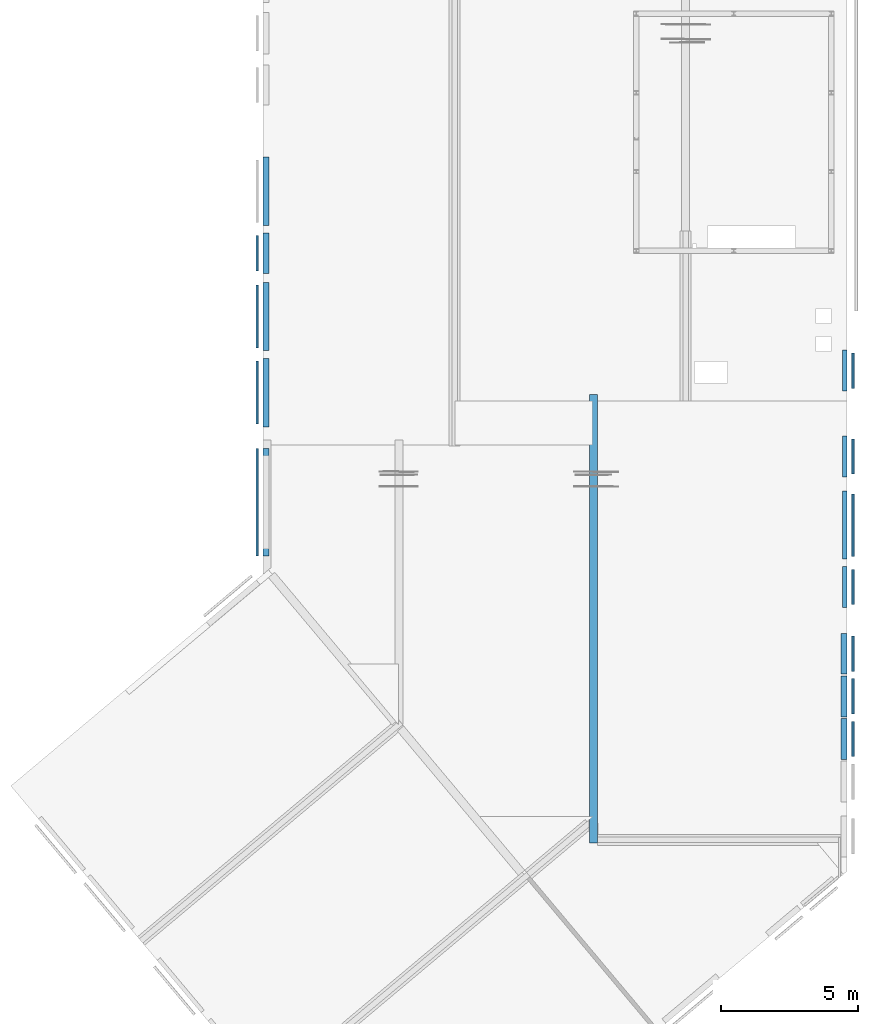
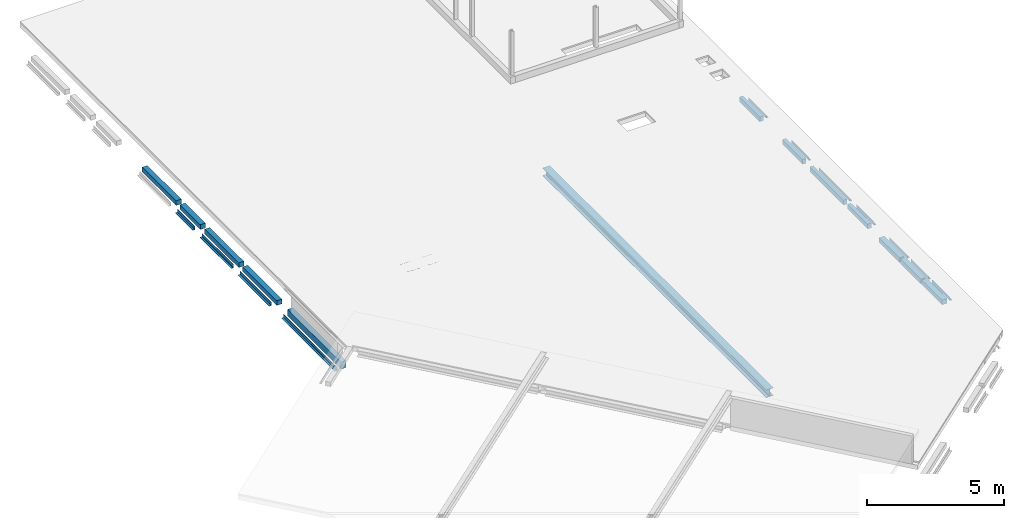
# One storey, part 4 of 9: 24 beams.
"""IFC2X3 building model written with IfcOpenShell, lengths in millimetres."""

from ifc_helpers import new_model, entity, si_unit, converted_unit, derived_unit, direction, frame, frame_2d, origin, origin_2d_with_axis, place, context, subcontext, project, spatial, polyline, circle_curve, parameter, trimmed, segment, composite_curve, rectangle, i_section, outline, extrude, material, type_object, element, save


model = new_model("IFC2X3")

# Units and contexts
model_context = context("Model", 3, precision=0.01, world=origin(), true_north=direction((6.12303176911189e-17, 1.0)))
body_context = subcontext(model_context, "Body", "Model", "MODEL_VIEW")
ifc_project = project(units=[si_unit("LENGTHUNIT", "METRE", prefix="MILLI"), si_unit("AREAUNIT", "SQUARE_METRE"), si_unit("VOLUMEUNIT", "CUBIC_METRE"), converted_unit("PLANEANGLEUNIT", "DEGREE", entity("IfcRatioMeasure", 0.0174532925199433), si_unit("PLANEANGLEUNIT", "RADIAN"), dimensions=[0, 0, 0, 0, 0, 0, 0]), si_unit("MASSUNIT", "GRAM", prefix="KILO"), derived_unit("MASSDENSITYUNIT", [(si_unit("MASSUNIT", "GRAM", prefix="KILO"), 1), (si_unit("LENGTHUNIT", "METRE"), -3)]), derived_unit("MOMENTOFINERTIAUNIT", [(si_unit("LENGTHUNIT", "METRE"), 4)]), si_unit("TIMEUNIT", "SECOND"), si_unit("FREQUENCYUNIT", "HERTZ"), si_unit("THERMODYNAMICTEMPERATUREUNIT", "DEGREE_CELSIUS"), derived_unit("THERMALTRANSMITTANCEUNIT", [(si_unit("MASSUNIT", "GRAM", prefix="KILO"), 1), (si_unit("THERMODYNAMICTEMPERATUREUNIT", "KELVIN"), -1), (si_unit("TIMEUNIT", "SECOND"), -3)]), derived_unit("VOLUMETRICFLOWRATEUNIT", [(si_unit("LENGTHUNIT", "METRE"), 3), (si_unit("TIMEUNIT", "SECOND"), -1)]), si_unit("ELECTRICCURRENTUNIT", "AMPERE"), si_unit("ELECTRICVOLTAGEUNIT", "VOLT"), si_unit("POWERUNIT", "WATT"), si_unit("FORCEUNIT", "NEWTON", prefix="KILO"), si_unit("ILLUMINANCEUNIT", "LUX"), si_unit("LUMINOUSFLUXUNIT", "LUMEN"), si_unit("LUMINOUSINTENSITYUNIT", "CANDELA"), derived_unit("USERDEFINED", [(si_unit("MASSUNIT", "GRAM", prefix="KILO"), -1), (si_unit("LENGTHUNIT", "METRE"), -2), (si_unit("TIMEUNIT", "SECOND"), 3), (si_unit("LUMINOUSFLUXUNIT", "LUMEN"), 1)]), derived_unit("LINEARVELOCITYUNIT", [(si_unit("LENGTHUNIT", "METRE"), 1), (si_unit("TIMEUNIT", "SECOND"), -1)]), si_unit("PRESSUREUNIT", "PASCAL"), derived_unit("USERDEFINED", [(si_unit("LENGTHUNIT", "METRE"), -2), (si_unit("MASSUNIT", "GRAM", prefix="KILO"), 1), (si_unit("TIMEUNIT", "SECOND"), -2)]), derived_unit("LINEARFORCEUNIT", [(si_unit("MASSUNIT", "GRAM", prefix="KILO"), 1), (si_unit("LENGTHUNIT", "METRE"), 1), (si_unit("TIMEUNIT", "SECOND"), -2), (si_unit("LENGTHUNIT", "METRE"), -1)]), derived_unit("PLANARFORCEUNIT", [(si_unit("MASSUNIT", "GRAM", prefix="KILO"), 1), (si_unit("LENGTHUNIT", "METRE"), 1), (si_unit("TIMEUNIT", "SECOND"), -2), (si_unit("LENGTHUNIT", "METRE"), -2)])], contexts=[model_context])

# Site, building, storey
site_placement = place(None, origin())
site = spatial("IfcSite", under=ifc_project, at=site_placement, Name="Default", CompositionType="ELEMENT")
building_placement = place(site_placement, origin())
building = spatial("IfcBuilding", under=site, at=building_placement, CompositionType="ELEMENT")
storey_placement = place(building_placement, frame((0.0, 0.0, 7000.0)))
storey = spatial("IfcBuildingStorey", under=building, at=storey_placement, Name="02 tweede verdieping", CompositionType="ELEMENT", Elevation=7000.00000000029)

# Beams
ifc_material_1 = material(Name="00_Staal_generiek")
beam_type_1 = type_object("IfcBeamType", Name="BERSnl_28_SF_LIB_balk hoeklijn ongelijk_gen_ISR:balk gen l150x100x10", PredefinedType="BEAM")
beam_1_placement = place(storey_placement, frame((13412.0349765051, 22236.0959877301, -60.0), z_axis=(0.0, 0.0, 1.0), x_axis=(0.0, 1.0, 0.0)))
element("IfcBeam", 1, at=beam_1_placement, inside=storey, type_object=beam_type_1, material=ifc_material_1, Name="BERSnl_28_SF_LIB_balk hoeklijn ongelijk_gen_ISR:balk gen l150x100x10", ObjectType="BERSnl_28_SF_LIB_balk hoeklijn ongelijk_gen_ISR:balk gen l150x100x10", context=body_context, shape_type="SweptSolid", body=[
    extrude(outline(composite_curve([segment(polyline([(-95.5555555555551, -37.7777777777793), (54.4444444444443, -37.7777777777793)]), True, "CONTINUOUS"), segment(polyline([(54.4444444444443, -37.7777777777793), (54.4444444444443, 62.222222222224)]), True, "CONTINUOUS"), segment(polyline([(54.4444444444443, 62.222222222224), (50.4444444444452, 62.2222222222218)]), True, "CONTINUOUS"), segment(trimmed(circle_curve(frame_2d((50.4444444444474, 56.222222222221), x_axis=(0.0, 1.0)), 6.00000000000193), [parameter(0.0)], [parameter(89.9999999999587)], True, "PARAMETER"), True, "CONTINUOUS"), segment(polyline([(44.4444444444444, 56.2222222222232), (44.4444444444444, -15.7777777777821)]), True, "CONTINUOUS"), segment(trimmed(circle_curve(frame_2d((32.4444444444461, -15.77777777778), x_axis=(1.0, 0.0)), 11.999999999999), [parameter(269.999999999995)], [parameter(0.0)], True, "PARAMETER"), False, "CONTINUOUS"), segment(polyline([(32.444444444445, -27.7777777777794), (-89.5555555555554, -27.7777777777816)]), True, "CONTINUOUS"), segment(trimmed(circle_curve(frame_2d((-89.5555555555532, -33.7777777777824), x_axis=(0.0, 1.0)), 6.00000000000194), [parameter(0.0)], [parameter(89.9999999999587)], True, "PARAMETER"), True, "CONTINUOUS"), segment(polyline([(-95.5555555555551, -33.7777777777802), (-95.5555555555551, -37.7777777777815)]), True, "CONTINUOUS")], self_intersect=False)), frame((206.561851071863, 14.3777777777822, -95.5555555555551), z_axis=(1.0, 0.0, 0.0), x_axis=(0.0, 0.0, -1.0)), (0.0, 0.0, 1.0), 1285.71516144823),
])
beam_2_placement = place(storey_placement, frame((13412.0349765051, 20591.4664529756, -60.0), z_axis=(0.0, 0.0, 1.0), x_axis=(0.0, 1.0, 0.0)))
element("IfcBeam", 2, at=beam_2_placement, inside=storey, type_object=beam_type_1, material=ifc_material_1, Name="BERSnl_28_SF_LIB_balk hoeklijn ongelijk_gen_ISR:balk gen l150x100x10", ObjectType="BERSnl_28_SF_LIB_balk hoeklijn ongelijk_gen_ISR:balk gen l150x100x10", context=body_context, shape_type="SweptSolid", body=[
    extrude(outline(composite_curve([segment(polyline([(-95.5555555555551, -37.7777777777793), (54.4444444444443, -37.7777777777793)]), True, "CONTINUOUS"), segment(polyline([(54.4444444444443, -37.7777777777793), (54.4444444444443, 62.222222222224)]), True, "CONTINUOUS"), segment(polyline([(54.4444444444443, 62.222222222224), (50.4444444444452, 62.222222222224)]), True, "CONTINUOUS"), segment(trimmed(circle_curve(frame_2d((50.4444444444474, 56.222222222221), x_axis=(0.0, 1.0)), 6.00000000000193), [parameter(0.0)], [parameter(89.9999999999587)], True, "PARAMETER"), True, "CONTINUOUS"), segment(polyline([(44.4444444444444, 56.2222222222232), (44.4444444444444, -15.77777777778)]), True, "CONTINUOUS"), segment(trimmed(circle_curve(frame_2d((32.4444444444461, -15.77777777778), x_axis=(1.0, 0.0)), 11.999999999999), [parameter(269.999999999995)], [parameter(0.0)], True, "PARAMETER"), False, "CONTINUOUS"), segment(polyline([(32.444444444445, -27.7777777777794), (-89.5555555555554, -27.7777777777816)]), True, "CONTINUOUS"), segment(trimmed(circle_curve(frame_2d((-89.5555555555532, -33.7777777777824), x_axis=(0.0, 1.0)), 6.00000000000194), [parameter(0.0)], [parameter(89.9999999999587)], True, "PARAMETER"), True, "CONTINUOUS"), segment(polyline([(-95.5555555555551, -33.7777777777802), (-95.5555555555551, -37.7777777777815)]), True, "CONTINUOUS")], self_intersect=False)), frame((-946.992085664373, 14.3777777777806, -95.5555555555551), z_axis=(1.0, 0.0, 0.0), x_axis=(0.0, 0.0, -1.0)), (0.0, 0.0, 1.0), 2286.00000000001),
])
beam_3_placement = place(storey_placement, frame((13412.0349765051, 17547.4664529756, -60.0), z_axis=(0.0, 0.0, 1.0), x_axis=(0.0, 1.0, 0.0)))
element("IfcBeam", 3, at=beam_3_placement, inside=storey, type_object=beam_type_1, material=ifc_material_1, Name="BERSnl_28_SF_LIB_balk hoeklijn ongelijk_gen_ISR:balk gen l150x100x10", ObjectType="BERSnl_28_SF_LIB_balk hoeklijn ongelijk_gen_ISR:balk gen l150x100x10", context=body_context, shape_type="SweptSolid", body=[
    extrude(outline(composite_curve([segment(polyline([(-95.5555555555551, -37.7777777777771), (54.4444444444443, -37.7777777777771)]), True, "CONTINUOUS"), segment(polyline([(54.4444444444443, -37.7777777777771), (54.4444444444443, 62.2222222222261)]), True, "CONTINUOUS"), segment(polyline([(54.4444444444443, 62.2222222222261), (50.4444444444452, 62.2222222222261)]), True, "CONTINUOUS"), segment(trimmed(circle_curve(frame_2d((50.4444444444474, 56.2222222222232), x_axis=(0.0, 1.0)), 6.00000000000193), [parameter(0.0)], [parameter(89.9999999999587)], True, "PARAMETER"), True, "CONTINUOUS"), segment(polyline([(44.4444444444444, 56.2222222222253), (44.4444444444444, -15.7777777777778)]), True, "CONTINUOUS"), segment(trimmed(circle_curve(frame_2d((32.4444444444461, -15.7777777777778), x_axis=(1.0, 0.0)), 11.999999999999), [parameter(269.999999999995)], [parameter(0.0)], True, "PARAMETER"), False, "CONTINUOUS"), segment(polyline([(32.444444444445, -27.7777777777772), (-89.5555555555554, -27.7777777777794)]), True, "CONTINUOUS"), segment(trimmed(circle_curve(frame_2d((-89.5555555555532, -33.7777777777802), x_axis=(0.0, 1.0)), 6.00000000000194), [parameter(0.0)], [parameter(89.9999999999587)], True, "PARAMETER"), True, "CONTINUOUS"), segment(polyline([(-95.5555555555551, -33.777777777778), (-95.5555555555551, -37.7777777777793)]), True, "CONTINUOUS")], self_intersect=False)), frame((-673.434756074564, 14.3777777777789, -95.5555555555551), z_axis=(1.0, 0.0, 0.0), x_axis=(0.0, 0.0, -1.0)), (0.0, 0.0, 1.0), 2286.44267041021),
])
beam_4_placement = place(storey_placement, frame((35026.8270571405, 18321.1553900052, -60.0), z_axis=(0.0, 0.0, 1.0), x_axis=(0.0, 1.0, 0.0)))
element("IfcBeam", 4, at=beam_4_placement, inside=storey, type_object=beam_type_1, material=ifc_material_1, Name="BERSnl_28_SF_LIB_balk hoeklijn ongelijk_gen_ISR:balk gen l150x100x10", ObjectType="BERSnl_28_SF_LIB_balk hoeklijn ongelijk_gen_ISR:balk gen l150x100x10", context=body_context, shape_type="SweptSolid", body=[
    extrude(outline(composite_curve([segment(polyline([(50.4444444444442, -62.2222222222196), (54.4444444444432, -62.2222222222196)]), True, "CONTINUOUS"), segment(polyline([(54.4444444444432, -62.2222222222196), (54.4444444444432, 37.7777777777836)]), True, "CONTINUOUS"), segment(polyline([(54.4444444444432, 37.7777777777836), (-95.5555555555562, 37.7777777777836)]), True, "CONTINUOUS"), segment(polyline([(-95.5555555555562, 37.7777777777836), (-95.5555555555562, 33.7777777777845)]), True, "CONTINUOUS"), segment(trimmed(circle_curve(frame_2d((-89.5555555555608, 33.7777777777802), x_axis=(-1.0, 0.0)), 5.99999999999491), [parameter(0.0)], [parameter(90.0000000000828)], True, "PARAMETER"), True, "CONTINUOUS"), segment(polyline([(-89.5555555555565, 27.7777777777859), (32.4444444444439, 27.7777777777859)]), True, "CONTINUOUS"), segment(trimmed(circle_curve(frame_2d((32.4444444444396, 15.77777777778), x_axis=(0.0, 1.0)), 12.0000000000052), [parameter(270.000000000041)], [parameter(0.0)], True, "PARAMETER"), False, "CONTINUOUS"), segment(polyline([(44.4444444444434, 15.7777777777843), (44.4444444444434, -56.222222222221)]), True, "CONTINUOUS"), segment(trimmed(circle_curve(frame_2d((50.4444444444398, -56.2222222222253), x_axis=(-1.0, 0.0)), 5.99999999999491), [parameter(0.0)], [parameter(90.0000000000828)], True, "PARAMETER"), True, "CONTINUOUS")], self_intersect=False)), frame((-145.858761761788, -14.3777777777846, -95.5555555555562), z_axis=(1.0, 0.0, 0.0), x_axis=(0.0, 0.0, -1.0)), (0.0, 0.0, 1.0), 1286.0),
])
beam_5_placement = place(storey_placement, frame((35026.8270571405, 15296.1553900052, -60.0), z_axis=(0.0, 0.0, 1.0), x_axis=(0.0, 1.0, 0.0)))
element("IfcBeam", 5, at=beam_5_placement, inside=storey, type_object=beam_type_1, material=ifc_material_1, Name="BERSnl_28_SF_LIB_balk hoeklijn ongelijk_gen_ISR:balk gen l150x100x10", ObjectType="BERSnl_28_SF_LIB_balk hoeklijn ongelijk_gen_ISR:balk gen l150x100x10", context=body_context, shape_type="SweptSolid", body=[
    extrude(outline(composite_curve([segment(polyline([(50.4444444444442, -62.222222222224), (54.4444444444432, -62.222222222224)]), True, "CONTINUOUS"), segment(polyline([(54.4444444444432, -62.222222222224), (54.4444444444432, 37.7777777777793)]), True, "CONTINUOUS"), segment(polyline([(54.4444444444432, 37.7777777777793), (-95.5555555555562, 37.7777777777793)]), True, "CONTINUOUS"), segment(polyline([(-95.5555555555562, 37.7777777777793), (-95.5555555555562, 33.7777777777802)]), True, "CONTINUOUS"), segment(trimmed(circle_curve(frame_2d((-89.5555555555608, 33.7777777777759), x_axis=(-1.0, 0.0)), 5.99999999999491), [parameter(0.0)], [parameter(90.0000000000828)], True, "PARAMETER"), True, "CONTINUOUS"), segment(polyline([(-89.5555555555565, 27.7777777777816), (32.4444444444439, 27.7777777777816)]), True, "CONTINUOUS"), segment(trimmed(circle_curve(frame_2d((32.4444444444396, 15.7777777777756), x_axis=(0.0, 1.0)), 12.0000000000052), [parameter(270.000000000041)], [parameter(0.0)], True, "PARAMETER"), False, "CONTINUOUS"), segment(polyline([(44.4444444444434, 15.77777777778), (44.4444444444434, -56.2222222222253)]), True, "CONTINUOUS"), segment(trimmed(circle_curve(frame_2d((50.4444444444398, -56.2222222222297), x_axis=(-1.0, 0.0)), 5.99999999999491), [parameter(0.0)], [parameter(90.0000000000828)], True, "PARAMETER"), True, "CONTINUOUS")], self_intersect=False)), frame((-242.521719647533, -14.3777777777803, -95.5555555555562), z_axis=(1.0, 0.0, 0.0), x_axis=(0.0, 0.0, -1.0)), (0.0, 0.0, 1.0), 1279.0),
])
beam_6_placement = place(storey_placement, frame((35026.8270571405, 13581.1553900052, -60.0), z_axis=(0.0, 0.0, 1.0), x_axis=(0.0, 1.0, 0.0)))
element("IfcBeam", 6, at=beam_6_placement, inside=storey, type_object=beam_type_1, material=ifc_material_1, Name="BERSnl_28_SF_LIB_balk hoeklijn ongelijk_gen_ISR:balk gen l150x100x10", ObjectType="BERSnl_28_SF_LIB_balk hoeklijn ongelijk_gen_ISR:balk gen l150x100x10", context=body_context, shape_type="SweptSolid", body=[
    extrude(outline(composite_curve([segment(polyline([(50.4444444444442, -62.2222222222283), (54.4444444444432, -62.2222222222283)]), True, "CONTINUOUS"), segment(polyline([(54.4444444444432, -62.2222222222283), (54.4444444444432, 37.777777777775)]), True, "CONTINUOUS"), segment(polyline([(54.4444444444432, 37.777777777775), (-95.5555555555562, 37.777777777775)]), True, "CONTINUOUS"), segment(polyline([(-95.5555555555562, 37.777777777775), (-95.5555555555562, 33.7777777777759)]), True, "CONTINUOUS"), segment(trimmed(circle_curve(frame_2d((-89.5555555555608, 33.7777777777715), x_axis=(-1.0, 0.0)), 5.99999999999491), [parameter(0.0)], [parameter(90.0000000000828)], True, "PARAMETER"), True, "CONTINUOUS"), segment(polyline([(-89.5555555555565, 27.7777777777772), (32.4444444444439, 27.7777777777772)]), True, "CONTINUOUS"), segment(trimmed(circle_curve(frame_2d((32.4444444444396, 15.7777777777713), x_axis=(0.0, 1.0)), 12.0000000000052), [parameter(270.000000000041)], [parameter(0.0)], True, "PARAMETER"), False, "CONTINUOUS"), segment(polyline([(44.4444444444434, 15.7777777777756), (44.4444444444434, -56.2222222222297)]), True, "CONTINUOUS"), segment(trimmed(circle_curve(frame_2d((50.4444444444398, -56.222222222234), x_axis=(-1.0, 0.0)), 5.99999999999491), [parameter(0.0)], [parameter(90.0000000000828)], True, "PARAMETER"), True, "CONTINUOUS")], self_intersect=False)), frame((-1517.34991712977, -14.377777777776, -95.5555555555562), z_axis=(1.0, 0.0, 0.0), x_axis=(0.0, 0.0, -1.0)), (0.0, 0.0, 1.0), 2268.82819748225),
])
beam_7_placement = place(storey_placement, frame((35026.8270571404, 10666.1553900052, -60.0), z_axis=(0.0, 0.0, 1.0), x_axis=(0.0, 1.0, 0.0)))
element("IfcBeam", 7, at=beam_7_placement, inside=storey, type_object=beam_type_1, material=ifc_material_1, Name="BERSnl_28_SF_LIB_balk hoeklijn ongelijk_gen_ISR:balk gen l150x100x10", ObjectType="BERSnl_28_SF_LIB_balk hoeklijn ongelijk_gen_ISR:balk gen l150x100x10", context=body_context, shape_type="SweptSolid", body=[
    extrude(outline(composite_curve([segment(polyline([(50.4444444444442, -62.2222222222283), (54.4444444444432, -62.2222222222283)]), True, "CONTINUOUS"), segment(polyline([(54.4444444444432, -62.2222222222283), (54.4444444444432, 37.777777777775)]), True, "CONTINUOUS"), segment(polyline([(54.4444444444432, 37.777777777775), (-95.5555555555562, 37.777777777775)]), True, "CONTINUOUS"), segment(polyline([(-95.5555555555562, 37.777777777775), (-95.5555555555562, 33.7777777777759)]), True, "CONTINUOUS"), segment(trimmed(circle_curve(frame_2d((-89.5555555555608, 33.7777777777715), x_axis=(-1.0, 0.0)), 5.99999999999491), [parameter(0.0)], [parameter(90.0000000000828)], True, "PARAMETER"), True, "CONTINUOUS"), segment(polyline([(-89.5555555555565, 27.7777777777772), (32.4444444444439, 27.7777777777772)]), True, "CONTINUOUS"), segment(trimmed(circle_curve(frame_2d((32.4444444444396, 15.7777777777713), x_axis=(0.0, 1.0)), 12.0000000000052), [parameter(270.000000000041)], [parameter(0.0)], True, "PARAMETER"), False, "CONTINUOUS"), segment(polyline([(44.4444444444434, 15.7777777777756), (44.4444444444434, -56.2222222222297)]), True, "CONTINUOUS"), segment(trimmed(circle_curve(frame_2d((50.4444444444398, -56.222222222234), x_axis=(-1.0, 0.0)), 5.99999999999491), [parameter(0.0)], [parameter(90.0000000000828)], True, "PARAMETER"), True, "CONTINUOUS")], self_intersect=False)), frame((-359.858761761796, -14.377777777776, -95.5555555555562), z_axis=(1.0, 0.0, 0.0), x_axis=(0.0, 0.0, -1.0)), (0.0, 0.0, 1.0), 1285.0),
])
beam_8_placement = place(storey_placement, frame((35026.8270571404, 8168.22848625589, -60.0), z_axis=(0.0, 0.0, 1.0), x_axis=(0.0, 1.0, 0.0)))
element("IfcBeam", 8, at=beam_8_placement, inside=storey, type_object=beam_type_1, material=ifc_material_1, Name="BERSnl_28_SF_LIB_balk hoeklijn ongelijk_gen_ISR:balk gen l150x100x10", ObjectType="BERSnl_28_SF_LIB_balk hoeklijn ongelijk_gen_ISR:balk gen l150x100x10", context=body_context, shape_type="SweptSolid", body=[
    extrude(outline(composite_curve([segment(polyline([(50.4444444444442, -62.2222222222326), (54.4444444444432, -62.2222222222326)]), True, "CONTINUOUS"), segment(polyline([(54.4444444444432, -62.2222222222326), (54.4444444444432, 37.7777777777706)]), True, "CONTINUOUS"), segment(polyline([(54.4444444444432, 37.7777777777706), (-95.5555555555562, 37.7777777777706)]), True, "CONTINUOUS"), segment(polyline([(-95.5555555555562, 37.7777777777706), (-95.5555555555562, 33.7777777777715)]), True, "CONTINUOUS"), segment(trimmed(circle_curve(frame_2d((-89.5555555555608, 33.7777777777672), x_axis=(-1.0, 0.0)), 5.99999999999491), [parameter(0.0)], [parameter(90.0000000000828)], True, "PARAMETER"), True, "CONTINUOUS"), segment(polyline([(-89.5555555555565, 27.7777777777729), (32.4444444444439, 27.7777777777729)]), True, "CONTINUOUS"), segment(trimmed(circle_curve(frame_2d((32.4444444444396, 15.777777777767), x_axis=(0.0, 1.0)), 12.0000000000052), [parameter(270.000000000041)], [parameter(0.0)], True, "PARAMETER"), False, "CONTINUOUS"), segment(polyline([(44.4444444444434, 15.7777777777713), (44.4444444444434, -56.222222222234)]), True, "CONTINUOUS"), segment(trimmed(circle_curve(frame_2d((50.4444444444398, -56.2222222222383), x_axis=(-1.0, 0.0)), 5.99999999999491), [parameter(0.0)], [parameter(90.0000000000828)], True, "PARAMETER"), True, "CONTINUOUS")], self_intersect=False)), frame((-292.658148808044, -14.3777777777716, -95.5555555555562), z_axis=(1.0, 0.0, 0.0), x_axis=(0.0, 0.0, -1.0)), (0.0, 0.0, 1.0), 1285.99999999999),
])
beam_9_placement = place(storey_placement, frame((35026.8270571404, 6618.22848625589, -60.0), z_axis=(0.0, 0.0, 1.0), x_axis=(0.0, 1.0, 0.0)))
element("IfcBeam", 9, at=beam_9_placement, inside=storey, type_object=beam_type_1, material=ifc_material_1, Name="BERSnl_28_SF_LIB_balk hoeklijn ongelijk_gen_ISR:balk gen l150x100x10", ObjectType="BERSnl_28_SF_LIB_balk hoeklijn ongelijk_gen_ISR:balk gen l150x100x10", context=body_context, shape_type="SweptSolid", body=[
    extrude(outline(composite_curve([segment(polyline([(50.4444444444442, -62.2222222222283), (54.4444444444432, -62.2222222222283)]), True, "CONTINUOUS"), segment(polyline([(54.4444444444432, -62.2222222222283), (54.4444444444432, 37.777777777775)]), True, "CONTINUOUS"), segment(polyline([(54.4444444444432, 37.777777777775), (-95.5555555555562, 37.777777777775)]), True, "CONTINUOUS"), segment(polyline([(-95.5555555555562, 37.777777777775), (-95.5555555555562, 33.7777777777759)]), True, "CONTINUOUS"), segment(trimmed(circle_curve(frame_2d((-89.5555555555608, 33.7777777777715), x_axis=(-1.0, 0.0)), 5.99999999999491), [parameter(0.0)], [parameter(90.0000000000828)], True, "PARAMETER"), True, "CONTINUOUS"), segment(polyline([(-89.5555555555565, 27.7777777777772), (32.4444444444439, 27.7777777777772)]), True, "CONTINUOUS"), segment(trimmed(circle_curve(frame_2d((32.4444444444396, 15.7777777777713), x_axis=(0.0, 1.0)), 12.0000000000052), [parameter(270.000000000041)], [parameter(0.0)], True, "PARAMETER"), False, "CONTINUOUS"), segment(polyline([(44.4444444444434, 15.7777777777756), (44.4444444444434, -56.2222222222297)]), True, "CONTINUOUS"), segment(trimmed(circle_curve(frame_2d((50.4444444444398, -56.222222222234), x_axis=(-1.0, 0.0)), 5.99999999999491), [parameter(0.0)], [parameter(90.0000000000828)], True, "PARAMETER"), True, "CONTINUOUS")], self_intersect=False)), frame((-292.658148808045, -14.377777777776, -95.5555555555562), z_axis=(1.0, 0.0, 0.0), x_axis=(0.0, 0.0, -1.0)), (0.0, 0.0, 1.0), 1285.99999999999),
])
beam_10_placement = place(storey_placement, frame((35026.8270571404, 5068.22848625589, -60.0), z_axis=(0.0, 0.0, 1.0), x_axis=(0.0, 1.0, 0.0)))
element("IfcBeam", 10, at=beam_10_placement, inside=storey, type_object=beam_type_1, material=ifc_material_1, Name="BERSnl_28_SF_LIB_balk hoeklijn ongelijk_gen_ISR:balk gen l150x100x10", ObjectType="BERSnl_28_SF_LIB_balk hoeklijn ongelijk_gen_ISR:balk gen l150x100x10", context=body_context, shape_type="SweptSolid", body=[
    extrude(outline(composite_curve([segment(polyline([(50.4444444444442, -62.2222222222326), (54.4444444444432, -62.2222222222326)]), True, "CONTINUOUS"), segment(polyline([(54.4444444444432, -62.2222222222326), (54.4444444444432, 37.7777777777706)]), True, "CONTINUOUS"), segment(polyline([(54.4444444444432, 37.7777777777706), (-95.5555555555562, 37.7777777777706)]), True, "CONTINUOUS"), segment(polyline([(-95.5555555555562, 37.7777777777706), (-95.5555555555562, 33.7777777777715)]), True, "CONTINUOUS"), segment(trimmed(circle_curve(frame_2d((-89.5555555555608, 33.7777777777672), x_axis=(-1.0, 0.0)), 5.99999999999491), [parameter(0.0)], [parameter(90.0000000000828)], True, "PARAMETER"), True, "CONTINUOUS"), segment(polyline([(-89.5555555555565, 27.7777777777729), (32.4444444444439, 27.7777777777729)]), True, "CONTINUOUS"), segment(trimmed(circle_curve(frame_2d((32.4444444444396, 15.777777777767), x_axis=(0.0, 1.0)), 12.0000000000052), [parameter(270.000000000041)], [parameter(0.0)], True, "PARAMETER"), False, "CONTINUOUS"), segment(polyline([(44.4444444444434, 15.7777777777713), (44.4444444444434, -56.222222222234)]), True, "CONTINUOUS"), segment(trimmed(circle_curve(frame_2d((50.4444444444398, -56.2222222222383), x_axis=(-1.0, 0.0)), 5.99999999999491), [parameter(0.0)], [parameter(90.0000000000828)], True, "PARAMETER"), True, "CONTINUOUS")], self_intersect=False)), frame((-292.658148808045, -14.3777777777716, -95.5555555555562), z_axis=(1.0, 0.0, 0.0), x_axis=(0.0, 0.0, -1.0)), (0.0, 0.0, 1.0), 1285.99999999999),
])
beam_11_placement = place(storey_placement, frame((13412.0349765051, 13087.3650350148, -50.0), z_axis=(0.0, 0.0, 1.0), x_axis=(0.0, 1.0, 0.0)))
element("IfcBeam", 11, at=beam_11_placement, inside=storey, type_object=beam_type_1, material=ifc_material_1, Name="BERSnl_28_SF_LIB_balk hoeklijn ongelijk_gen_ISR:balk gen l150x100x10", ObjectType="BERSnl_28_SF_LIB_balk hoeklijn ongelijk_gen_ISR:balk gen l150x100x10", context=body_context, shape_type="SweptSolid", body=[
    extrude(outline(composite_curve([segment(polyline([(-95.5555555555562, -37.7777777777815), (54.4444444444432, -37.7777777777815)]), True, "CONTINUOUS"), segment(polyline([(54.4444444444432, -37.7777777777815), (54.4444444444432, 62.2222222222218)]), True, "CONTINUOUS"), segment(polyline([(54.4444444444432, 62.2222222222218), (50.4444444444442, 62.2222222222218)]), True, "CONTINUOUS"), segment(trimmed(circle_curve(frame_2d((50.4444444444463, 56.2222222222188), x_axis=(0.0, 1.0)), 6.00000000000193), [parameter(0.0)], [parameter(89.9999999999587)], True, "PARAMETER"), True, "CONTINUOUS"), segment(polyline([(44.4444444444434, 56.222222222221), (44.4444444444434, -15.7777777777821)]), True, "CONTINUOUS"), segment(trimmed(circle_curve(frame_2d((32.444444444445, -15.7777777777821), x_axis=(1.0, 0.0)), 11.999999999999), [parameter(269.999999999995)], [parameter(0.0)], True, "PARAMETER"), False, "CONTINUOUS"), segment(polyline([(32.4444444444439, -27.7777777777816), (-89.5555555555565, -27.7777777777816)]), True, "CONTINUOUS"), segment(trimmed(circle_curve(frame_2d((-89.5555555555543, -33.7777777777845), x_axis=(0.0, 1.0)), 6.00000000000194), [parameter(0.0)], [parameter(89.9999999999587)], True, "PARAMETER"), True, "CONTINUOUS"), segment(polyline([(-95.5555555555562, -33.7777777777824), (-95.5555555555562, -37.7777777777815)]), True, "CONTINUOUS")], self_intersect=False)), frame((-1006.12086474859, 14.3777777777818, -95.5555555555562), z_axis=(1.0, 0.0, 0.0), x_axis=(0.0, 0.0, -1.0)), (0.0, 0.0, 1.0), 3900.0),
])
ifc_material_2 = material(Name="f2_beton prefab")
beam_type_2 = type_object("IfcBeamType", Name="BERSnl_28_SF_LIB_balk vierkant prefab_gen_ISR:balk vierkant gen 150x210", PredefinedType="JOIST")
beam_12_placement = place(storey_placement, frame((34758.4270571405, 18344.7128473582, 10.0), z_axis=(0.0, 0.0, 1.0), x_axis=(0.0, 1.0, 0.0)))
element("IfcBeam", 12, at=beam_12_placement, inside=storey, type_object=beam_type_2, material=ifc_material_2, Name="BERSnl_28_SF_LIB_balk vierkant prefab_gen_ISR:balk vierkant gen 150x210", ObjectType="BERSnl_28_SF_LIB_balk vierkant prefab_gen_ISR:balk vierkant gen 150x210", context=body_context, shape_type="SweptSolid", body=[
    extrude(rectangle(XDim=210.000000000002, YDim=149.999999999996, at=frame_2d((0.0, -2.1600499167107e-12), x_axis=(1.0, 0.0))), frame((-269.416219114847, 0.0, -105.0), z_axis=(1.0, 0.0, 0.0), x_axis=(0.0, 0.0, -1.0)), (0.0, 0.0, 1.0), 1486.0),
])
beam_13_placement = place(storey_placement, frame((34758.4270571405, 15319.7128473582, 10.0), z_axis=(0.0, 0.0, 1.0), x_axis=(0.0, 1.0, 0.0)))
element("IfcBeam", 13, at=beam_13_placement, inside=storey, type_object=beam_type_2, material=ifc_material_2, Name="BERSnl_28_SF_LIB_balk vierkant prefab_gen_ISR:balk vierkant gen 150x210", ObjectType="BERSnl_28_SF_LIB_balk vierkant prefab_gen_ISR:balk vierkant gen 150x210", context=body_context, shape_type="SweptSolid", body=[
    extrude(rectangle(XDim=210.000000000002, YDim=149.999999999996, at=frame_2d((0.0, -2.1600499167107e-12), x_axis=(1.0, 0.0))), frame((-366.079177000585, 0.0, -105.0), z_axis=(1.0, 0.0, 0.0), x_axis=(0.0, 0.0, -1.0)), (0.0, 0.0, 1.0), 1479.0),
])
beam_14_placement = place(storey_placement, frame((34758.4270571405, 13604.7128473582, 10.0), z_axis=(0.0, 0.0, 1.0), x_axis=(0.0, 1.0, 0.0)))
element("IfcBeam", 14, at=beam_14_placement, inside=storey, type_object=beam_type_2, material=ifc_material_2, Name="BERSnl_28_SF_LIB_balk vierkant prefab_gen_ISR:balk vierkant gen 150x210", ObjectType="BERSnl_28_SF_LIB_balk vierkant prefab_gen_ISR:balk vierkant gen 150x210", context=body_context, shape_type="SweptSolid", body=[
    extrude(rectangle(XDim=210.000000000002, YDim=149.999999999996, at=frame_2d((0.0, -2.1600499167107e-12), x_axis=(1.0, 0.0))), frame((-1640.90737448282, 0.0, -105.0), z_axis=(1.0, 0.0, 0.0), x_axis=(0.0, 0.0, -1.0)), (0.0, 0.0, 1.0), 2468.82819748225),
])
beam_15_placement = place(storey_placement, frame((34758.4270571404, 10689.7128473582, 10.0), z_axis=(0.0, 0.0, 1.0), x_axis=(0.0, 1.0, 0.0)))
element("IfcBeam", 15, at=beam_15_placement, inside=storey, type_object=beam_type_2, material=ifc_material_2, Name="BERSnl_28_SF_LIB_balk vierkant prefab_gen_ISR:balk vierkant gen 150x210", ObjectType="BERSnl_28_SF_LIB_balk vierkant prefab_gen_ISR:balk vierkant gen 150x210", context=body_context, shape_type="SweptSolid", body=[
    extrude(rectangle(XDim=210.000000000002, YDim=149.999999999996, at=frame_2d((0.0, 2.1600499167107e-12), x_axis=(1.0, 0.0))), frame((-481.896994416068, 0.0, -105.0), z_axis=(1.0, 0.0, 0.0), x_axis=(0.0, 0.0, -1.0)), (0.0, 0.0, 1.0), 1483.48077530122),
])
beam_type_3 = type_object("IfcBeamType", Name="BERSnl_28_SF_LIB_balk vierkant prefab_gen_ISR:balk vierkant gen 214x210", PredefinedType="JOIST")
beam_16_placement = place(storey_placement, frame((13702.4349765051, 22188.7279143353, 10.0), z_axis=(0.0, 0.0, 1.0), x_axis=(0.0, 1.0, 0.0)))
element("IfcBeam", 16, at=beam_16_placement, inside=storey, type_object=beam_type_3, material=ifc_material_2, Name="BERSnl_28_SF_LIB_balk vierkant prefab_gen_ISR:balk vierkant gen 214x210", ObjectType="BERSnl_28_SF_LIB_balk vierkant prefab_gen_ISR:balk vierkant gen 214x210", context=body_context, shape_type="SweptSolid", body=[
    extrude(rectangle(XDim=210.000000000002, YDim=213.999999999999, at=origin_2d_with_axis()), frame((155.44914916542, 0.0, -105.0), z_axis=(1.0, 0.0, 0.0), x_axis=(0.0, 0.0, -1.0)), (0.0, 0.0, 1.0), 1483.45055191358),
])
beam_17_placement = place(storey_placement, frame((13702.4349765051, 25044.0983795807, 10.0), z_axis=(0.0, 0.0, 1.0), x_axis=(0.0, 1.0, 0.0)))
element("IfcBeam", 17, at=beam_17_placement, inside=storey, type_object=beam_type_3, material=ifc_material_2, Name="BERSnl_28_SF_LIB_balk vierkant prefab_gen_ISR:balk vierkant gen 214x210", ObjectType="BERSnl_28_SF_LIB_balk vierkant prefab_gen_ISR:balk vierkant gen 214x210", context=body_context, shape_type="SweptSolid", body=[
    extrude(rectangle(XDim=210.000000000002, YDim=213.999999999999, at=origin_2d_with_axis()), frame((-937.08712714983, 0.0, -105.0), z_axis=(1.0, 0.0, 0.0), x_axis=(0.0, 0.0, -1.0)), (0.0, 0.0, 1.0), 2477.32406466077),
])
beam_18_placement = place(storey_placement, frame((13702.4349765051, 20544.0983795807, 10.0), z_axis=(0.0, 0.0, 1.0), x_axis=(0.0, 1.0, 0.0)))
element("IfcBeam", 18, at=beam_18_placement, inside=storey, type_object=beam_type_3, material=ifc_material_2, Name="BERSnl_28_SF_LIB_balk vierkant prefab_gen_ISR:balk vierkant gen 214x210", ObjectType="BERSnl_28_SF_LIB_balk vierkant prefab_gen_ISR:balk vierkant gen 214x210", context=body_context, shape_type="SweptSolid", body=[
    extrude(rectangle(XDim=210.000000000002, YDim=213.999999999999, at=origin_2d_with_axis()), frame((-999.624012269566, 0.0, -105.0), z_axis=(1.0, 0.0, 0.0), x_axis=(0.0, 0.0, -1.0)), (0.0, 0.0, 1.0), 2486.00000000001),
])
beam_19_placement = place(storey_placement, frame((13702.4349765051, 17500.0983795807, 10.0), z_axis=(0.0, 0.0, 1.0), x_axis=(0.0, 1.0, 0.0)))
element("IfcBeam", 19, at=beam_19_placement, inside=storey, type_object=beam_type_3, material=ifc_material_2, Name="BERSnl_28_SF_LIB_balk vierkant prefab_gen_ISR:balk vierkant gen 214x210", ObjectType="BERSnl_28_SF_LIB_balk vierkant prefab_gen_ISR:balk vierkant gen 214x210", context=body_context, shape_type="SweptSolid", body=[
    extrude(rectangle(XDim=210.000000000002, YDim=213.999999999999, at=frame_2d((0.0, 2.16715534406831e-12), x_axis=(1.0, 0.0))), frame((-726.066682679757, 0.0, -105.0), z_axis=(1.0, 0.0, 0.0), x_axis=(0.0, 0.0, -1.0)), (0.0, 0.0, 1.0), 2486.4426704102),
])
beam_20_placement = place(storey_placement, frame((34726.4270571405, 8190.40177371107, 10.0), z_axis=(0.0, 0.0, 1.0), x_axis=(0.0, 1.0, 0.0)))
element("IfcBeam", 20, at=beam_20_placement, inside=storey, type_object=beam_type_3, material=ifc_material_2, Name="BERSnl_28_SF_LIB_balk vierkant prefab_gen_ISR:balk vierkant gen 214x210", ObjectType="BERSnl_28_SF_LIB_balk vierkant prefab_gen_ISR:balk vierkant gen 214x210", context=body_context, shape_type="SweptSolid", body=[
    extrude(rectangle(XDim=210.000000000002, YDim=213.999999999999, at=frame_2d((0.0, 2.16715534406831e-12), x_axis=(1.0, 0.0))), frame((-411.033374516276, 0.0, -105.0), z_axis=(1.0, 0.0, 0.0), x_axis=(0.0, 0.0, -1.0)), (0.0, 0.0, 1.0), 1482.20193825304),
])
beam_21_placement = place(storey_placement, frame((34726.4270571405, 6640.40177371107, 10.0), z_axis=(0.0, 0.0, 1.0), x_axis=(0.0, 1.0, 0.0)))
element("IfcBeam", 21, at=beam_21_placement, inside=storey, type_object=beam_type_3, material=ifc_material_2, Name="BERSnl_28_SF_LIB_balk vierkant prefab_gen_ISR:balk vierkant gen 214x210", ObjectType="BERSnl_28_SF_LIB_balk vierkant prefab_gen_ISR:balk vierkant gen 214x210", context=body_context, shape_type="SweptSolid", body=[
    extrude(rectangle(XDim=210.000000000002, YDim=213.999999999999, at=frame_2d((0.0, 2.16715534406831e-12), x_axis=(1.0, 0.0))), frame((-413.31221156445, 0.0, -105.0), z_axis=(1.0, 0.0, 0.0), x_axis=(0.0, 0.0, -1.0)), (0.0, 0.0, 1.0), 1484.48077530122),
])
beam_22_placement = place(storey_placement, frame((34726.4270571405, 5090.40177371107, 10.0), z_axis=(0.0, 0.0, 1.0), x_axis=(0.0, 1.0, 0.0)))
element("IfcBeam", 22, at=beam_22_placement, inside=storey, type_object=beam_type_3, material=ifc_material_2, Name="BERSnl_28_SF_LIB_balk vierkant prefab_gen_ISR:balk vierkant gen 214x210", ObjectType="BERSnl_28_SF_LIB_balk vierkant prefab_gen_ISR:balk vierkant gen 214x210", context=body_context, shape_type="SweptSolid", body=[
    extrude(rectangle(XDim=210.000000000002, YDim=213.999999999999, at=frame_2d((0.0, 2.16715534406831e-12), x_axis=(1.0, 0.0))), frame((-411.424018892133, 0.0, -105.0), z_axis=(1.0, 0.0, 0.0), x_axis=(0.0, 0.0, -1.0)), (0.0, 0.0, 1.0), 1482.5925826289),
])
beam_type_4 = type_object("IfcBeamType", Name="BERSnl_28_SF_LIB_balk hea -SH_gen_ISR:balk gen hea360", PredefinedType="BEAM")
beam_23_placement = place(storey_placement, frame((25615.4349765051, 14569.9264994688, 1058.0), z_axis=(0.0, 0.0, 1.0), x_axis=(0.0, 1.0, 0.0)))
element("IfcBeam", 23, at=beam_23_placement, inside=storey, type_object=beam_type_4, material=ifc_material_1, Name="BERSnl_28_SF_LIB_balk hea -SH_gen_ISR:balk gen hea360", ObjectType="BERSnl_28_SF_LIB_balk hea -SH_gen_ISR:balk gen hea360", context=body_context, shape_type="SweptSolid", body=[
    extrude(i_section(OverallWidth=300.000000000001, OverallDepth=350.000000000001, WebThickness=9.99999999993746, FlangeThickness=17.5000000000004, FilletRadius=26.9999999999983, at=frame_2d((1.08002495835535e-12, 4.33431068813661e-12), x_axis=(0.0, 1.0))), frame((-12927.629871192, 0.0, -175.0), z_axis=(1.0, 0.0, 0.0), x_axis=(0.0, 0.0, -1.0)), (0.0, 0.0, 1.0), 16301.2731714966),
])
beam_type_5 = type_object("IfcBeamType", Name="BERSnl_28_SF_LIB_balk vierkant prefab_gen_ISR:balk vierkant gen 214x300", PredefinedType="JOIST")
beam_24_placement = place(storey_placement, frame((13702.4349765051, 12574.0201634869, 110.0), z_axis=(0.0, 0.0, 1.0), x_axis=(0.0, 1.0, 0.0)))
element("IfcBeam", 24, at=beam_24_placement, inside=storey, type_object=beam_type_5, material=ifc_material_2, Name="BERSnl_28_SF_LIB_balk vierkant prefab_gen_ISR:balk vierkant gen 214x300", ObjectType="BERSnl_28_SF_LIB_balk vierkant prefab_gen_ISR:balk vierkant gen 214x300", context=body_context, shape_type="SweptSolid", body=[
    extrude(rectangle(XDim=300.000000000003, YDim=213.999999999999, at=frame_2d((0.0, 2.16715534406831e-12), x_axis=(1.0, 0.0))), frame((-492.775993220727, 0.0, -150.0), z_axis=(1.0, 0.0, 0.0), x_axis=(0.0, 0.0, -1.0)), (0.0, 0.0, 1.0), 3900.0),
])

save(model, "model.ifc")
